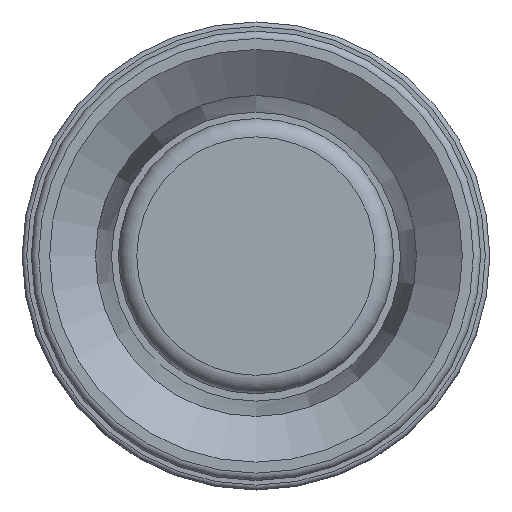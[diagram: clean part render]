
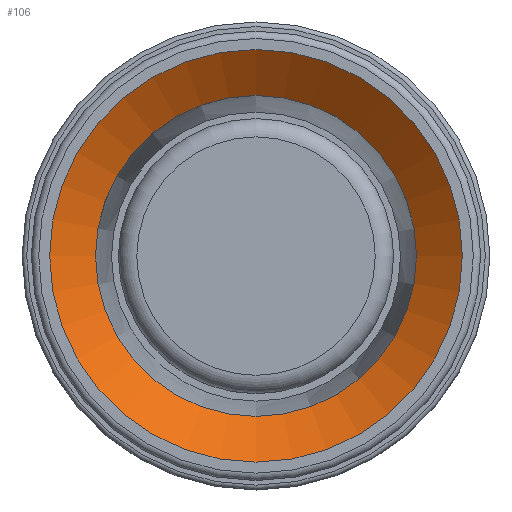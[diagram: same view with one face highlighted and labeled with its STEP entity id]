
A CAD part, top view. The second image highlights one B-rep face of the part: STEP entity #106.
In plain terms, the highlighted conical face has half-angle 52.765 degrees and reference radius 22.5 mm.
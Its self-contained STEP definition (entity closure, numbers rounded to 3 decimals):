
#106=ADVANCED_FACE('',(#216,#217),#218,.F.);
#216=FACE_BOUND('',#391,.T.);
#217=FACE_OUTER_BOUND('',#392,.T.);
#218=CONICAL_SURFACE('',#393,22.5,0.921);
#391=EDGE_LOOP('',(#670));
#392=EDGE_LOOP('',(#671));
#393=AXIS2_PLACEMENT_3D('',#672,#673,#674);
#670=ORIENTED_EDGE('',*,*,#943,.F.);
#671=ORIENTED_EDGE('',*,*,#944,.T.);
#672=CARTESIAN_POINT('',(0.0,0.0,0.0));
#673=DIRECTION('',(-0.0,0.,1.0));
#674=DIRECTION('',(0.0,-1.0,0.));
#943=EDGE_CURVE('',#1090,#1090,#1091,.T.);
#944=EDGE_CURVE('',#1092,#1092,#1093,.T.);
#1090=VERTEX_POINT('',#1358);
#1091=CIRCLE('',#1359,17.5);
#1092=VERTEX_POINT('',#1360);
#1093=CIRCLE('',#1361,22.5);
#1358=CARTESIAN_POINT('',(0.0,-17.5,-3.8));
#1359=AXIS2_PLACEMENT_3D('',#1527,#1528,#1529);
#1360=CARTESIAN_POINT('',(0.0,-22.5,0.));
#1361=AXIS2_PLACEMENT_3D('',#1530,#1531,#1532);
#1527=CARTESIAN_POINT('',(0.0,0.0,-3.8));
#1528=DIRECTION('',(0.0,0.,1.0));
#1529=DIRECTION('',(0.0,-1.0,0.));
#1530=CARTESIAN_POINT('',(0.0,0.0,0.0));
#1531=DIRECTION('',(0.0,0.,1.0));
#1532=DIRECTION('',(0.0,-1.0,0.));
